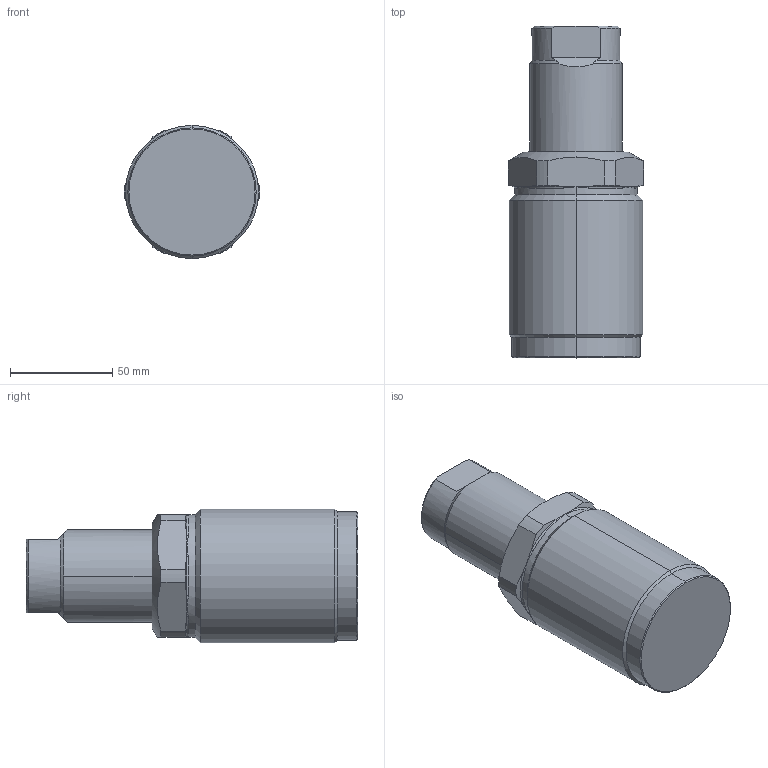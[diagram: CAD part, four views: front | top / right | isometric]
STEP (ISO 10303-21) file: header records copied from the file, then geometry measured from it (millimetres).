
FILE_DESCRIPTION((' '),'2;1');
FILE_NAME( 'TGM40-40.x_t.stp', '2024-08-27T13:43:53', (' '), ('--- Datakit www.datakit.com---'), ' Datakit CrossCadWare V2024.1 Dec 21 2023', 'Mastercam 2025', ' ');
FILE_SCHEMA(('AUTOMOTIVE_DESIGN { 1 0 10303 214 1 1 1 1 }'));
Length unit declared in the file: millimetre
Products named in the file (1): TGM40-40
Bounding box: 65.97 x 162 x 65 mm (x, y, z)
Volume: 346856.3 mm3; surface area: 44897.2 mm2
Topology: 2 solids, 2 shells, 79 faces, 196 edges, 111 vertices
Faces by surface type: cylinder 22, cone 22, plane 17, bspline 12, torus 6
Entity records: 4153 total; most frequent: CARTESIAN_POINT 2393, ORIENTED_EDGE 364, DIRECTION 358, EDGE_CURVE 182, AXIS2_PLACEMENT_3D 156, VERTEX_POINT 111, EDGE_LOOP 83, FACE_OUTER_BOUND 79
